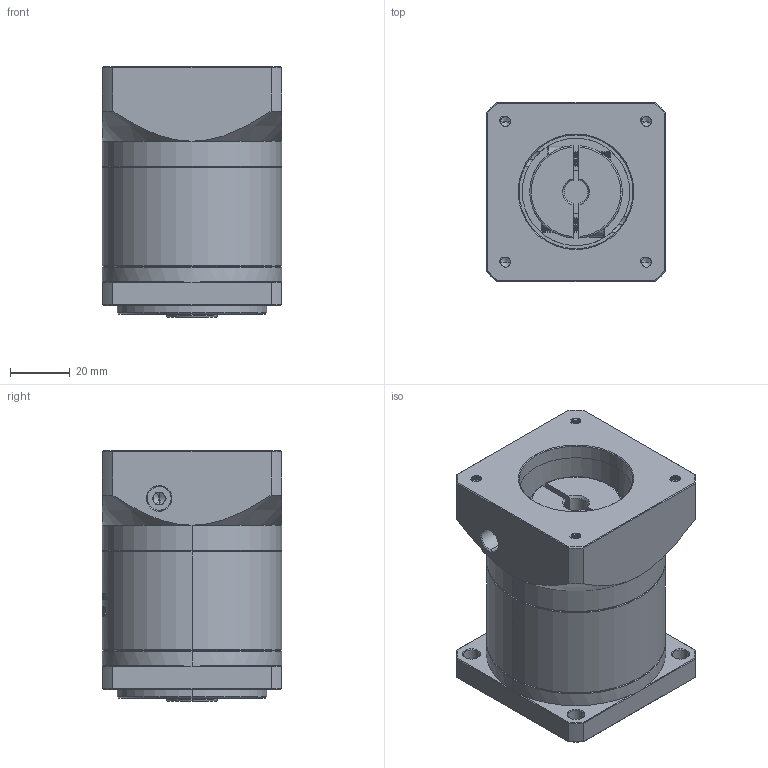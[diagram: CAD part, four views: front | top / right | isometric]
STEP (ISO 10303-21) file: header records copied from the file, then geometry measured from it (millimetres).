
FILE_DESCRIPTION (( 'STEP AP214' ), '1' );
FILE_NAME ('ZF60-K10-L1-8-38.1-47.14X47.14-M4.STEP', '2022-04-17T11:31:09', ( '' ), ( 'Microsoft' ), 'SwSTEP 2.0', 'SolidWorks 2016', '' );
FILE_SCHEMA (( 'AUTOMOTIVE_DESIGN' ));
Length unit declared in the file: millimetre
Products named in the file (1): ZF60-K10-L1-8-38.1-47.14X47.14-M4
Bounding box: 60 x 60 x 84 mm (x, y, z)
Volume: 219440.5 mm3; surface area: 42688.7 mm2
Topology: 6 solids, 6 shells, 1552 faces, 4199 edges, 2722 vertices
Faces by surface type: plane 737, bspline 292, cylinder 284, cone 221, torus 18
Entity records: 82552 total; most frequent: CARTESIAN_POINT 29821, ORIENTED_EDGE 8374, DIRECTION 6188, EDGE_CURVE 4187, VERTEX_POINT 2722, VECTOR 2152, LINE 2152, AXIS2_PLACEMENT_3D 2018
